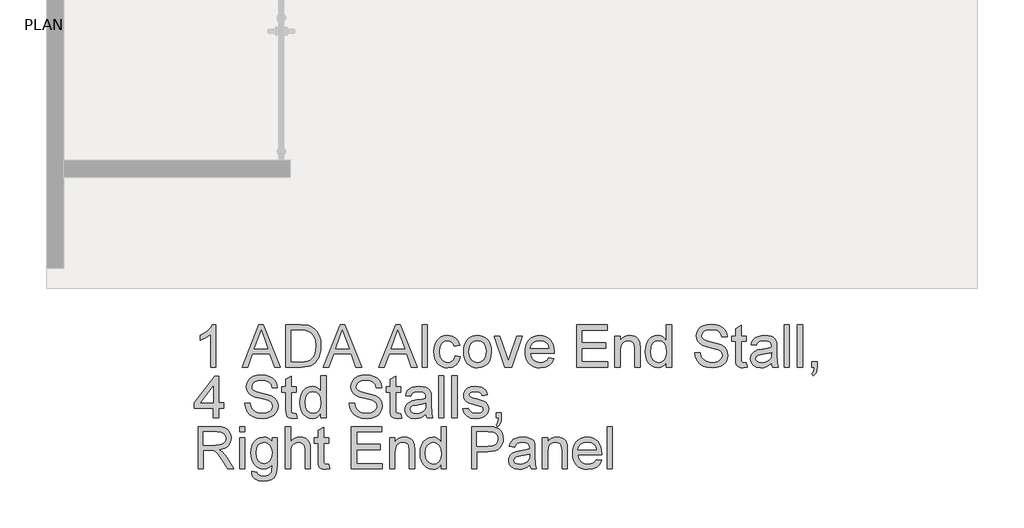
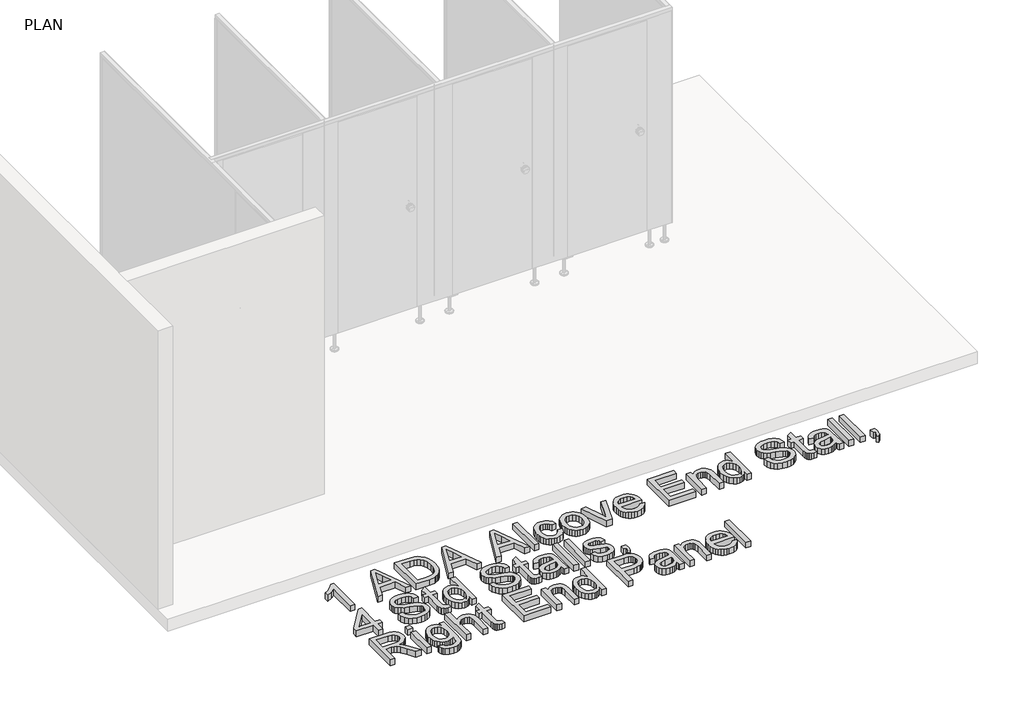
# One storey, part 3 of 21: 1 proxy.
"""IFC4 building model written with IfcOpenShell, lengths in millimetres."""

from ifc_helpers import new_model, si_unit, origin, origin_with_axes, place, context, project, spatial, polyline, outline, extrude, element, save

model = new_model("IFC4")

# Units and contexts
model_context = context("Model", 3, world=origin())
ifc_project = project(units=[si_unit("LENGTHUNIT", "METRE", prefix="MILLI")], contexts=[model_context])

# Site, building, storey
site = spatial("IfcSite", under=ifc_project)
building = spatial("IfcBuilding", under=site)
storey = spatial("IfcBuildingStorey", under=building, Name="PLAN", Elevation=0.0)

# Proxy
placement = place(None, origin())
element("IfcBuildingElementProxy", 1, Name="12\" Arial", ObjectType="12\" Arial", at=placement, inside=storey, context=model_context, shape_type="SweptSolid", body=[
    extrude(outline(polyline([(-21870.6570007, -4821.3604361), (-21908.7278874, -4821.3604361), (-21908.7278874, -4584.0122515), (-21944.7911298, -4609.7026643), (-21984.869661, -4628.9240007), (-21984.869661, -4592.9351156), (-21954.9687716, -4576.6694779), (-21929.0645818, -4557.3180164), (-21908.6442356, -4536.7396611), (-21895.1948769, -4516.7933421), (-21870.6570007, -4516.7933421), (-21870.6570007, -4821.3604361)])), origin_with_axes(), (0.0, 0.0, 1.0), 50.8),
    extrude(outline(polyline([(-21682.4589257, -4821.3604361), (-21560.8849026, -4516.7933421), (-21528.4651631, -4516.7933421), (-21406.8911399, -4821.3604361), (-21447.1183855, -4821.3604361), (-21481.9919126, -4726.1832192), (-21607.4325102, -4726.1832192), (-21642.2316801, -4821.3604361), (-21682.4589257, -4821.3604361)]), holes=[polyline([(-21593.4533565, -4688.1123325), (-21495.8967092, -4688.1123325), (-21523.3345162, -4613.2346314), (-21544.6750328, -4554.8642288), (-21563.636119, -4606.6911977), (-21593.4533565, -4688.1123325)])]), origin_with_axes(), (0.0, 0.0, 1.0), 50.8),
    extrude(outline(polyline([(-21366.2177511, -4821.3604361), (-21366.2177511, -4516.7933421), (-21261.1510265, -4516.7933421), (-21206.7959128, -4521.1804169), (-21182.5182868, -4529.6385485), (-21162.032878, -4542.9670767), (-21140.9712009, -4566.1665233), (-21125.9696357, -4595.0171172), (-21116.9910037, -4628.9611793), (-21113.9981264, -4667.4410307), (-21116.0243601, -4700.130315), (-21122.1030612, -4728.8972571), (-21131.3605327, -4753.38866), (-21142.9230774, -4773.2513273), (-21156.2330164, -4788.931402), (-21170.7326705, -4800.8750273), (-21187.3793888, -4809.7328289), (-21207.1305202, -4816.1554321), (-21256.0947369, -4821.3604361), (-21366.2177511, -4821.3604361)]), holes=[polyline([(-21328.1468644, -4783.2895494), (-21260.7792405, -4783.2895494), (-21232.9138796, -4781.9139412), (-21211.7778453, -4777.7871165), (-21195.8282257, -4771.1507363), (-21183.522109, -4762.2464616), (-21170.2958219, -4745.767047), (-21160.359841, -4724.435825), (-21154.1417201, -4698.1598492), (-21152.0690131, -4666.8461731), (-21156.1307752, -4625.3548551), (-21168.3160615, -4594.7196884), (-21186.3197987, -4573.6766006), (-21207.8369136, -4560.9615193), (-21229.7351093, -4556.3885514), (-21261.8202414, -4554.8642288), (-21328.1468644, -4554.8642288), (-21328.1468644, -4783.2895494)])]), origin_with_axes(), (0.0, 0.0, 1.0), 50.8),
    extrude(outline(polyline([(-21097.1190418, -4821.3604361), (-20975.5450187, -4516.7933421), (-20943.1252792, -4516.7933421), (-20821.551256, -4821.3604361), (-20861.7785016, -4821.3604361), (-20896.6520287, -4726.1832192), (-21022.0926263, -4726.1832192), (-21056.8917962, -4821.3604361), (-21097.1190418, -4821.3604361)]), holes=[polyline([(-21008.1134726, -4688.1123325), (-20910.5568252, -4688.1123325), (-20937.9946323, -4613.2346314), (-20959.3351489, -4554.8642288), (-20978.2962351, -4606.6911977), (-21008.1134726, -4688.1123325)])]), origin_with_axes(), (0.0, 0.0, 1.0), 50.8),
    extrude(outline(polyline([(-20697.3747308, -4821.3604361), (-20575.8007077, -4516.7933421), (-20543.3809682, -4516.7933421), (-20421.806945, -4821.3604361), (-20462.0341906, -4821.3604361), (-20496.9077178, -4726.1832192), (-20622.3483153, -4726.1832192), (-20657.1474853, -4821.3604361), (-20697.3747308, -4821.3604361)]), holes=[polyline([(-20608.3691616, -4688.1123325), (-20510.8125143, -4688.1123325), (-20538.2503213, -4613.2346314), (-20559.5908379, -4554.8642288), (-20578.5519241, -4606.6911977), (-20608.3691616, -4688.1123325)])]), origin_with_axes(), (0.0, 0.0, 1.0), 50.8),
    extrude(outline(polyline([(-20385.8924171, -4821.3604361), (-20385.8924171, -4516.7933421), (-20347.8215303, -4516.7933421), (-20347.8215303, -4821.3604361), (-20385.8924171, -4821.3604361)])), origin_with_axes(), (0.0, 0.0, 1.0), 50.8),
    extrude(outline(polyline([(-20147.9493749, -4740.4598018), (-20109.8784881, -4745.2186626), (-20120.4929785, -4779.0790729), (-20140.4392976, -4804.6672446), (-20167.8399261, -4820.7562839), (-20200.8173446, -4826.119297), (-20222.1694795, -4824.2487486), (-20241.314135, -4818.6371036), (-20258.2513111, -4809.284362), (-20272.9810078, -4796.1905237), (-20284.9037202, -4779.6018969), (-20293.4199434, -4759.76479), (-20298.5296773, -4736.6792028), (-20300.2329219, -4710.3451355), (-20297.3236964, -4676.4661359), (-20288.59602, -4647.1043363), (-20273.9104729, -4623.3936839), (-20253.1276353, -4606.4681261), (-20228.2644463, -4596.3183682), (-20201.337845, -4592.9351156), (-20169.169061, -4597.5824406), (-20143.4507642, -4611.5244157), (-20125.0008838, -4634.017469), (-20114.637349, -4664.3180282), (-20152.7082357, -4669.0768891), (-20159.6141607, -4652.4673494), (-20170.3680709, -4640.5609026), (-20184.3751086, -4633.3947274), (-20201.0404162, -4631.0060023), (-20225.6433549, -4635.7090953), (-20245.1714148, -4649.8183741), (-20257.91438, -4674.0960001), (-20262.1620351, -4709.3041347), (-20258.0073266, -4744.9862964), (-20245.5432008, -4769.3475742), (-20226.3683377, -4783.3732012), (-20202.081417, -4788.0484102), (-20182.3674641, -4785.1298901), (-20166.2040676, -4776.3743297), (-20154.4463353, -4761.5586575), (-20147.9493749, -4740.4598018)])), origin_with_axes(), (0.0, 0.0, 1.0), 50.8),
    extrude(outline(polyline([(-20086.0841839, -4709.5272063), (-20084.0254189, -4680.5604293), (-20077.8491239, -4655.5996465), (-20067.5552989, -4634.6448578), (-20053.143944, -4617.6960634), (-20038.6349952, -4606.8631487), (-20022.6203131, -4599.1253525), (-20005.0998977, -4594.4826748), (-19986.0737489, -4592.9351156), (-19965.0701634, -4594.8196059), (-19946.0788696, -4600.4730768), (-19929.0998676, -4609.8955283), (-19914.1331573, -4623.0869605), (-19901.9176634, -4639.60123), (-19893.1923106, -4658.9921937), (-19887.957099, -4681.2598517), (-19886.2120284, -4706.4042038), (-19889.2978522, -4744.8654659), (-19898.5553237, -4774.1436137), (-19913.714898, -4796.0696932), (-19934.5070303, -4812.4747506), (-19959.2029155, -4822.7081604), (-19986.0737489, -4826.119297), (-20007.3840579, -4824.2417776), (-20026.5519501, -4818.6092197), (-20043.5774254, -4809.2216231), (-20058.4604838, -4796.0789879), (-20070.5458526, -4779.4043856), (-20079.1782589, -4759.4208879), (-20084.3577026, -4736.1284948), (-20086.0841839, -4709.5272063)]), holes=[polyline([(-20048.0132971, -4709.4528491), (-20043.607633, -4743.9081169), (-20030.3906406, -4768.4552878), (-20010.5000894, -4783.1501296), (-19986.0737489, -4788.0484102), (-19961.7589443, -4783.1222457), (-19941.9055717, -4768.343752), (-19928.6885793, -4743.4712684), (-19924.2829152, -4708.2631339), (-19928.7164632, -4674.8116882), (-19942.0171075, -4650.5991247), (-19961.8983641, -4635.9042829), (-19986.0737489, -4631.0060023), (-20010.5000894, -4635.8856936), (-20030.3906406, -4650.5247675), (-20043.607633, -4675.0161705), (-20048.0132971, -4709.4528491)])]), origin_with_axes(), (0.0, 0.0, 1.0), 50.8),
    extrude(outline(polyline([(-19788.5066667, -4821.3604361), (-19867.176585, -4597.6939764), (-19826.8749822, -4597.6939764), (-19779.2120166, -4731.6856521), (-19764.8610769, -4776.7461157), (-19750.8075659, -4734.2137969), (-19702.8471715, -4597.6939764), (-19662.5455687, -4597.6939764), (-19740.2488434, -4821.3604361), (-19788.5066667, -4821.3604361)])), origin_with_axes(), (0.0, 0.0, 1.0), 50.8),
    extrude(outline(polyline([(-19472.6372781, -4754.7363843), (-19435.3099634, -4759.4952451), (-19448.759322, -4787.6208563), (-19470.2206691, -4808.6453548), (-19499.2106827, -4821.7508114), (-19535.2460411, -4826.119297), (-19558.8683943, -4824.2348067), (-19579.9161294, -4818.5813357), (-19598.3892465, -4809.1588842), (-19614.2877454, -4795.9674521), (-19627.0725366, -4779.374178), (-19636.2045303, -4759.7462007), (-19641.6837266, -4737.0835201), (-19643.5101253, -4711.3861363), (-19641.6651373, -4684.817379), (-19636.1301731, -4661.3995081), (-19626.9052329, -4641.1325236), (-19613.9903166, -4624.0164255), (-19598.1336436, -4610.4183524), (-19580.0834331, -4600.705443), (-19559.8396852, -4594.8776974), (-19537.4023999, -4592.9351156), (-19515.6877736, -4594.8730501), (-19496.0505017, -4600.6868537), (-19478.490584, -4610.3765265), (-19463.0080206, -4623.9420683), (-19450.3696202, -4641.0209878), (-19441.3421913, -4661.2507937), (-19435.9257339, -4684.631486), (-19434.1202481, -4711.1630647), (-19434.3433197, -4721.4243584), (-19605.4392386, -4721.4243584), (-19598.8493316, -4749.9217555), (-19583.5410429, -4770.8718968), (-19561.4476597, -4783.7542819), (-19534.5024691, -4788.0484102), (-19514.2401319, -4786.0593551), (-19497.1751543, -4780.0921897), (-19483.3075364, -4769.7751281), (-19472.6372781, -4754.7363843)]), holes=[polyline([(-19605.4392386, -4683.3534716), (-19472.1911349, -4683.3534716), (-19477.340371, -4663.2398488), (-19487.434361, -4648.8517305), (-19509.6299855, -4635.4674344), (-19537.5511143, -4631.0060023), (-19563.2136432, -4634.5658533), (-19584.4333294, -4645.2454063), (-19599.183939, -4661.8921246), (-19605.4392386, -4683.3534716)])]), origin_with_axes(), (0.0, 0.0, 1.0), 50.8),
    extrude(outline(polyline([(-19272.3189794, -4821.3604361), (-19272.3189794, -4516.7933421), (-19053.4113806, -4516.7933421), (-19053.4113806, -4554.8642288), (-19234.2480927, -4554.8642288), (-19234.2480927, -4645.2825849), (-19062.9291022, -4645.2825849), (-19062.9291022, -4683.3534716), (-19234.2480927, -4683.3534716), (-19234.2480927, -4783.2895494), (-19048.6525197, -4783.2895494), (-19048.6525197, -4821.3604361), (-19272.3189794, -4821.3604361)])), origin_with_axes(), (0.0, 0.0, 1.0), 50.8),
    extrude(outline(polyline([(-18996.3050504, -4821.3604361), (-18996.3050504, -4597.6939764), (-18958.2341637, -4597.6939764), (-18958.2341637, -4628.9240007), (-18945.0078766, -4613.1788635), (-18929.1233196, -4601.9323369), (-18910.5804927, -4595.1844209), (-18889.3793958, -4592.9351156), (-18870.6134973, -4594.7475723), (-18853.4276893, -4600.1849426), (-18839.0953388, -4608.568717), (-18828.889813, -4619.220386), (-18817.4759827, -4647.2158721), (-18815.4683383, -4684.0226864), (-18815.4683383, -4821.3604361), (-18853.5392251, -4821.3604361), (-18853.5392251, -4689.1533333), (-18857.9262999, -4655.4695214), (-18863.9957064, -4645.4405939), (-18873.4297763, -4637.6609718), (-18885.522116, -4632.6697447), (-18899.5663323, -4631.0060023), (-18921.8641979, -4634.7424517), (-18940.8717573, -4645.9517997), (-18948.4678101, -4655.1023827), (-18953.8935621, -4667.6083344), (-18958.2341637, -4702.6863438), (-18958.2341637, -4821.3604361), (-18996.3050504, -4821.3604361)])), origin_with_axes(), (0.0, 0.0, 1.0), 50.8),
    extrude(outline(polyline([(-18625.1139045, -4821.3604361), (-18625.1139045, -4785.4459082), (-18636.5044982, -4803.2405158), (-18650.3024063, -4815.9509498), (-18666.5076287, -4823.5772102), (-18685.1201655, -4826.119297), (-18709.7323989, -4822.4386155), (-18732.2626307, -4811.3965712), (-18751.3352527, -4793.76462), (-18765.5746566, -4770.3142178), (-18774.4417528, -4741.993419), (-18777.3974516, -4709.7502779), (-18774.6741191, -4677.9068067), (-18766.5041217, -4649.1491593), (-18752.8967539, -4625.1131942), (-18733.8613105, -4607.4347697), (-18710.8384623, -4596.5600291), (-18685.2688799, -4592.9351156), (-18666.6424011, -4595.5283229), (-18650.1722812, -4603.3079451), (-18636.2117167, -4615.2329811), (-18625.1139045, -4630.2624303), (-18625.1139045, -4516.7933421), (-18587.0430178, -4516.7933421), (-18587.0430178, -4821.3604361), (-18625.1139045, -4821.3604361)]), holes=[polyline([(-18739.3265648, -4709.6015635), (-18735.0324365, -4744.038242), (-18722.1500514, -4768.529645), (-18703.4306262, -4783.1687189), (-18681.6253771, -4788.0484102), (-18659.8294226, -4783.3917905), (-18641.5840245, -4769.4219314), (-18629.2314345, -4745.8785828), (-18625.1139045, -4712.5014943), (-18629.3057917, -4676.0106981), (-18641.8814533, -4650.7106605), (-18660.5915839, -4635.9321669), (-18683.1868783, -4631.0060023), (-18705.215199, -4635.7369792), (-18723.2654094, -4649.9299099), (-18735.311276, -4674.3097771), (-18739.3265648, -4709.6015635)])]), origin_with_axes(), (0.0, 0.0, 1.0), 50.8),
    extrude(outline(polyline([(-18420.4828882, -4716.6654975), (-18382.4120014, -4716.6654975), (-18378.0435159, -4737.7922372), (-18370.1430633, -4754.7735629), (-18357.8183573, -4768.2508055), (-18340.1771114, -4778.8652959), (-18318.6135232, -4785.7526316), (-18294.5217902, -4788.0484102), (-18273.3113987, -4786.3103106), (-18254.7406878, -4781.0960119), (-18239.6926493, -4772.8423627), (-18229.050275, -4761.9862114), (-18222.7206183, -4749.5220856), (-18220.6107327, -4736.4445129), (-18222.1908232, -4723.7015477), (-18226.9310948, -4712.6873873), (-18236.5603523, -4703.2904961), (-18252.8074006, -4695.3993381), (-18308.2406937, -4680.8625054), (-18344.6292488, -4671.2425426), (-18367.9123473, -4662.0873122), (-18386.8641388, -4649.2792844), (-18400.2949082, -4633.7572188), (-18408.2976019, -4615.8557227), (-18410.9651665, -4595.9094036), (-18407.6655657, -4573.611538), (-18397.7667634, -4552.8194058), (-18381.5290097, -4535.1967492), (-18359.2125548, -4522.4073107), (-18332.4253733, -4514.6276886), (-18302.7754395, -4512.0344812), (-18270.6531288, -4514.748519), (-18242.5461069, -4522.8906325), (-18219.4581961, -4536.2935179), (-18202.3932185, -4554.7898716), (-18191.5928351, -4577.2271569), (-18187.2987068, -4602.4528373), (-18225.3695936, -4602.4528373), (-18232.3591704, -4579.7367124), (-18246.9331818, -4563.3409497), (-18269.7050745, -4553.4142634), (-18301.2882955, -4550.105368), (-18333.6150885, -4553.3770848), (-18355.7921236, -4563.1922353), (-18368.6187407, -4577.6361215), (-18372.8942797, -4594.7940456), (-18369.8642238, -4609.4238248), (-18360.774056, -4621.1908518), (-18339.284825, -4631.7123957), (-18298.6114362, -4642.4570112), (-18256.6367965, -4652.662537), (-18231.2438124, -4661.5668118), (-18209.5408045, -4675.3786618), (-18194.3998195, -4692.4250501), (-18185.5048393, -4712.5200836), (-18182.539846, -4735.4778693), (-18185.9509825, -4758.9468608), (-18196.1843923, -4781.0216547), (-18212.8218159, -4800.0199195), (-18235.4449943, -4814.2593235), (-18262.6504351, -4823.1543036), (-18293.0346462, -4826.119297), (-18330.334077, -4822.9219373), (-18361.0343062, -4813.3298584), (-18385.4885306, -4797.3058817), (-18404.0499468, -4774.8128285), (-18415.9656883, -4747.4122), (-18420.4828882, -4716.6654975)])), origin_with_axes(), (0.0, 0.0, 1.0), 50.8),
    extrude(outline(polyline([(-18049.2917423, -4789.6099114), (-18044.5328815, -4822.4757941), (-18073.0116893, -4826.119297), (-18091.2849714, -4824.5392065), (-18104.9109284, -4819.7989349), (-18114.5401859, -4812.4933399), (-18120.8233694, -4803.2172792), (-18124.2809792, -4787.2862489), (-18125.4335158, -4760.0157455), (-18125.4335158, -4635.7648632), (-18153.9866809, -4635.7648632), (-18153.9866809, -4597.6939764), (-18125.4335158, -4597.6939764), (-18125.4335158, -4543.3388627), (-18087.3626291, -4520.9573453), (-18087.3626291, -4597.6939764), (-18049.2917423, -4597.6939764), (-18049.2917423, -4635.7648632), (-18087.3626291, -4635.7648632), (-18087.3626291, -4758.9003875), (-18085.3549846, -4778.5306885), (-18078.8487296, -4785.4830868), (-18065.8733981, -4788.0484102), (-18049.2917423, -4789.6099114)])), origin_with_axes(), (0.0, 0.0, 1.0), 50.8),
    extrude(outline(polyline([(-17868.4550302, -4792.8072711), (-17886.6446604, -4808.4036939), (-17905.3733803, -4818.6092197), (-17925.0687439, -4824.2417776), (-17946.1583049, -4826.119297), (-17977.9738922, -4821.602097), (-18001.4428836, -4808.0504972), (-18015.9146538, -4787.4721419), (-18020.7385772, -4761.8746756), (-18018.9168258, -4746.0923597), (-18013.4515716, -4731.7600093), (-18005.0213239, -4719.4910712), (-17994.3045924, -4709.8989923), (-17967.6475359, -4697.4069826), (-17934.707296, -4691.6814781), (-17895.7813015, -4685.6585448), (-17868.6781018, -4678.5946108), (-17868.4550302, -4670.1178899), (-17871.0761215, -4653.1272695), (-17878.9393955, -4642.010868), (-17896.5248735, -4633.7572188), (-17921.0255711, -4631.0060023), (-17943.7045173, -4632.8370484), (-17959.5426011, -4638.3301866), (-17970.3429845, -4648.4892391), (-17977.9088296, -4664.3180282), (-18015.9797164, -4659.5591674), (-18009.3712202, -4638.7391512), (-17999.5095964, -4622.380567), (-17985.4746748, -4609.869968), (-17966.3462849, -4600.5939072), (-17942.9516506, -4594.8498135), (-17916.1179958, -4592.9351156), (-17890.3811098, -4594.6267419), (-17869.9793528, -4599.7016208), (-17854.5967069, -4607.3325286), (-17843.917154, -4616.6922412), (-17836.8346306, -4628.2640806), (-17832.2430735, -4642.5313684), (-17830.3841434, -4675.8433944), (-17830.3841434, -4723.2089312), (-17828.4508562, -4789.3496612), (-17820.8664217, -4821.3604361), (-17858.9373085, -4821.3604361), (-17865.034599, -4808.1248544), (-17868.4550302, -4792.8072711)]), holes=[polyline([(-17868.4550302, -4716.6654975), (-17929.874078, -4728.339578), (-17962.6284249, -4734.5112257), (-17977.4626864, -4744.5494478), (-17982.6676905, -4759.1978163), (-17979.8328222, -4770.5187001), (-17971.3282174, -4779.7947609), (-17957.339769, -4785.9849979), (-17938.0533701, -4788.0484102), (-17917.6051399, -4785.7712209), (-17899.5363401, -4778.9396531), (-17884.8879716, -4768.8735471), (-17874.7010351, -4756.8927431), (-17870.1838351, -4744.5494478), (-17868.6781018, -4727.4472916), (-17868.4550302, -4716.6654975)])]), origin_with_axes(), (0.0, 0.0, 1.0), 50.8),
    extrude(outline(polyline([(-17778.0366741, -4821.3604361), (-17778.0366741, -4516.7933421), (-17739.9657874, -4516.7933421), (-17739.9657874, -4821.3604361), (-17778.0366741, -4821.3604361)])), origin_with_axes(), (0.0, 0.0, 1.0), 50.8),
    extrude(outline(polyline([(-17682.8594572, -4821.3604361), (-17682.8594572, -4516.7933421), (-17644.7885705, -4516.7933421), (-17644.7885705, -4821.3604361), (-17682.8594572, -4821.3604361)])), origin_with_axes(), (0.0, 0.0, 1.0), 50.8),
    extrude(outline(polyline([(-17578.1645187, -4821.3604361), (-17578.1645187, -4783.2895494), (-17540.0936319, -4783.2895494), (-17540.0936319, -4821.3604361), (-17541.8038475, -4843.1378013), (-17546.9344944, -4860.2864307), (-17555.7830013, -4873.4383606), (-17568.646797, -4883.2256271), (-17578.1645187, -4868.9490446), (-17569.9108694, -4862.0524142), (-17564.1853649, -4852.5161032), (-17559.2034325, -4821.3604361), (-17578.1645187, -4821.3604361)])), origin_with_axes(), (0.0, 0.0, 1.0), 50.8),
    extrude(outline(polyline([(-21889.6924441, -5187.4131005), (-21889.6924441, -5116.0301878), (-22027.6994086, -5116.0301878), (-22027.6994086, -5077.959301), (-21880.1747224, -4887.6048672), (-21851.6215573, -4887.6048672), (-21851.6215573, -5077.959301), (-21813.5506706, -5077.959301), (-21813.5506706, -5116.0301878), (-21851.6215573, -5116.0301878), (-21851.6215573, -5187.4131005), (-21889.6924441, -5187.4131005)]), holes=[polyline([(-21889.6924441, -5077.959301), (-21889.6924441, -4960.3262095), (-21980.8543721, -5077.959301), (-21889.6924441, -5077.959301)])]), origin_with_axes(), (0.0, 0.0, 1.0), 50.8),
    extrude(outline(polyline([(-21661.2671235, -5082.7181619), (-21623.1962368, -5082.7181619), (-21618.8277512, -5103.8449015), (-21610.9272986, -5120.8262272), (-21598.6025926, -5134.3034699), (-21580.9613468, -5144.9179603), (-21559.3977586, -5151.805296), (-21535.3060255, -5154.1010745), (-21514.095634, -5152.362975), (-21495.5249232, -5147.1486763), (-21480.4768847, -5138.895027), (-21469.8345103, -5128.0388757), (-21463.5048536, -5115.5747499), (-21461.394968, -5102.4971773), (-21462.9750585, -5089.754212), (-21467.7153301, -5078.7400516), (-21477.3445876, -5069.3431604), (-21493.5916359, -5061.4520025), (-21549.0249291, -5046.9151697), (-21585.4134842, -5037.2952069), (-21608.6965826, -5028.1399766), (-21627.6483741, -5015.3319487), (-21641.0791435, -4999.8098831), (-21649.0818373, -4981.908387), (-21651.7494018, -4961.9620679), (-21648.449801, -4939.6642024), (-21638.5509987, -4918.8720701), (-21622.313245, -4901.2494136), (-21599.9967901, -4888.459975), (-21573.2096086, -4880.6803529), (-21543.5596748, -4878.0871455), (-21511.4373641, -4880.8011834), (-21483.3303422, -4888.9432969), (-21460.2424314, -4902.3461823), (-21443.1774539, -4920.842536), (-21432.3770705, -4943.2798213), (-21428.0829421, -4968.5055016), (-21466.1538289, -4968.5055016), (-21473.1434057, -4945.7893768), (-21487.7174171, -4929.393614), (-21510.4893098, -4919.4669277), (-21542.0725308, -4916.1580323), (-21574.3993238, -4919.4297491), (-21596.5763589, -4929.2448996), (-21609.402976, -4943.6887859), (-21613.6785151, -4960.8467099), (-21610.6484591, -4975.4764892), (-21601.5582914, -4987.2435162), (-21580.0690604, -4997.7650601), (-21539.3956716, -5008.5096756), (-21497.4210318, -5018.7152014), (-21472.0280477, -5027.6194762), (-21450.3250398, -5041.4313262), (-21435.1840548, -5058.4777144), (-21426.2890747, -5078.5727479), (-21423.3240813, -5101.5305337), (-21426.7352179, -5124.9995251), (-21436.9686276, -5147.0743191), (-21453.6060513, -5166.0725839), (-21476.2292296, -5180.3119878), (-21503.4346704, -5189.2069679), (-21533.8188815, -5192.1719613), (-21571.1183123, -5188.9746017), (-21601.8185416, -5179.3825228), (-21626.2727659, -5163.358546), (-21644.8341822, -5140.8654928), (-21656.7499236, -5113.4648644), (-21661.2671235, -5082.7181619)])), origin_with_axes(), (0.0, 0.0, 1.0), 50.8),
    extrude(outline(polyline([(-21290.0759776, -5155.6625758), (-21285.3171168, -5188.5284585), (-21313.7959246, -5192.1719613), (-21332.0692067, -5190.5918708), (-21345.6951637, -5185.8515992), (-21355.3244212, -5178.5460043), (-21361.6076047, -5169.2699435), (-21365.0652145, -5153.3389132), (-21366.2177511, -5126.0684099), (-21366.2177511, -5001.8175275), (-21394.7709162, -5001.8175275), (-21394.7709162, -4963.7466408), (-21366.2177511, -4963.7466408), (-21366.2177511, -4909.391527), (-21328.1468644, -4887.0100096), (-21328.1468644, -4963.7466408), (-21290.0759776, -4963.7466408), (-21290.0759776, -5001.8175275), (-21328.1468644, -5001.8175275), (-21328.1468644, -5124.9530519), (-21326.13922, -5144.5833529), (-21319.6329649, -5151.5357511), (-21306.6576334, -5154.1010745), (-21290.0759776, -5155.6625758)])), origin_with_axes(), (0.0, 0.0, 1.0), 50.8),
    extrude(outline(polyline([(-21113.9981264, -5187.4131005), (-21113.9981264, -5151.4985725), (-21125.38872, -5169.2931801), (-21139.1866281, -5182.0036141), (-21155.3918505, -5189.6298745), (-21174.0043873, -5192.1719613), (-21198.6166208, -5188.4912799), (-21221.1468526, -5177.4492356), (-21240.2194746, -5159.8172844), (-21254.4588785, -5136.3668822), (-21263.3259747, -5108.0460834), (-21266.2816734, -5075.8029422), (-21263.5583409, -5043.959471), (-21255.3883435, -5015.2018236), (-21241.7809758, -4991.1658585), (-21222.7455324, -4973.487434), (-21199.7226841, -4962.6126934), (-21174.1531017, -4958.9877799), (-21155.526623, -4961.5809873), (-21139.056503, -4969.3606094), (-21125.0959386, -4981.2856455), (-21113.9981264, -4996.3150947), (-21113.9981264, -4882.8460064), (-21075.9272396, -4882.8460064), (-21075.9272396, -5187.4131005), (-21113.9981264, -5187.4131005)]), holes=[polyline([(-21228.2107866, -5075.6542278), (-21223.9166583, -5110.0909064), (-21211.0342733, -5134.5823094), (-21192.314848, -5149.2213833), (-21170.5095989, -5154.1010745), (-21148.7136444, -5149.4444549), (-21130.4682463, -5135.4745958), (-21118.1156564, -5111.9312471), (-21113.9981264, -5078.5541586), (-21118.1900136, -5042.0633624), (-21130.7656751, -5016.7633249), (-21149.4758057, -5001.9848312), (-21172.0711001, -4997.0586667), (-21194.0994208, -5001.7896436), (-21212.1496313, -5015.9825742), (-21224.1954978, -5040.3624414), (-21228.2107866, -5075.6542278)])]), origin_with_axes(), (0.0, 0.0, 1.0), 50.8),
    extrude(outline(polyline([(-20909.36711, -5082.7181619), (-20871.2962233, -5082.7181619), (-20866.9277377, -5103.8449015), (-20859.0272852, -5120.8262272), (-20846.7025791, -5134.3034699), (-20829.0613333, -5144.9179603), (-20807.4977451, -5151.805296), (-20783.406012, -5154.1010745), (-20762.1956205, -5152.362975), (-20743.6249097, -5147.1486763), (-20728.5768712, -5138.895027), (-20717.9344968, -5128.0388757), (-20711.6048401, -5115.5747499), (-20709.4949546, -5102.4971773), (-20711.0750451, -5089.754212), (-20715.8153166, -5078.7400516), (-20725.4445741, -5069.3431604), (-20741.6916225, -5061.4520025), (-20797.1249156, -5046.9151697), (-20833.5134707, -5037.2952069), (-20856.7965691, -5028.1399766), (-20875.7483607, -5015.3319487), (-20889.17913, -4999.8098831), (-20897.1818238, -4981.908387), (-20899.8493883, -4961.9620679), (-20896.5497876, -4939.6642024), (-20886.6509852, -4918.8720701), (-20870.4132315, -4901.2494136), (-20848.0967767, -4888.459975), (-20821.3095951, -4880.6803529), (-20791.6596613, -4878.0871455), (-20759.5373506, -4880.8011834), (-20731.4303288, -4888.9432969), (-20708.3424179, -4902.3461823), (-20691.2774404, -4920.842536), (-20680.477057, -4943.2798213), (-20676.1829286, -4968.5055016), (-20714.2538154, -4968.5055016), (-20721.2433923, -4945.7893768), (-20735.8174036, -4929.393614), (-20758.5892963, -4919.4669277), (-20790.1725173, -4916.1580323), (-20822.4993103, -4919.4297491), (-20844.6763454, -4929.2448996), (-20857.5029625, -4943.6887859), (-20861.7785016, -4960.8467099), (-20858.7484457, -4975.4764892), (-20849.6582779, -4987.2435162), (-20828.1690469, -4997.7650601), (-20787.4956581, -5008.5096756), (-20745.5210183, -5018.7152014), (-20720.1280343, -5027.6194762), (-20698.4250263, -5041.4313262), (-20683.2840413, -5058.4777144), (-20674.3890612, -5078.5727479), (-20671.4240678, -5101.5305337), (-20674.8352044, -5124.9995251), (-20685.0686141, -5147.0743191), (-20701.7060378, -5166.0725839), (-20724.3292161, -5180.3119878), (-20751.5346569, -5189.2069679), (-20781.918868, -5192.1719613), (-20819.2182988, -5188.9746017), (-20849.9185281, -5179.3825228), (-20874.3727525, -5163.358546), (-20892.9341687, -5140.8654928), (-20904.8499101, -5113.4648644), (-20909.36711, -5082.7181619)])), origin_with_axes(), (0.0, 0.0, 1.0), 50.8),
    extrude(outline(polyline([(-20538.1759641, -5155.6625758), (-20533.4171033, -5188.5284585), (-20561.8959112, -5192.1719613), (-20580.1691932, -5190.5918708), (-20593.7951503, -5185.8515992), (-20603.4244078, -5178.5460043), (-20609.7075912, -5169.2699435), (-20613.165201, -5153.3389132), (-20614.3177377, -5126.0684099), (-20614.3177377, -5001.8175275), (-20642.8709027, -5001.8175275), (-20642.8709027, -4963.7466408), (-20614.3177377, -4963.7466408), (-20614.3177377, -4909.391527), (-20576.2468509, -4887.0100096), (-20576.2468509, -4963.7466408), (-20538.1759641, -4963.7466408), (-20538.1759641, -5001.8175275), (-20576.2468509, -5001.8175275), (-20576.2468509, -5124.9530519), (-20574.2392065, -5144.5833529), (-20567.7329514, -5151.5357511), (-20554.7576199, -5154.1010745), (-20538.1759641, -5155.6625758)])), origin_with_axes(), (0.0, 0.0, 1.0), 50.8),
    extrude(outline(polyline([(-20357.339252, -5158.8599354), (-20375.5288823, -5174.4563582), (-20394.2576022, -5184.661884), (-20413.9529657, -5190.294442), (-20435.0425268, -5192.1719613), (-20466.858114, -5187.6547614), (-20490.3271055, -5174.1031615), (-20504.7988757, -5153.5248062), (-20509.6227991, -5127.9273399), (-20507.8010477, -5112.1450241), (-20502.3357934, -5097.8126736), (-20493.9055458, -5085.5437355), (-20483.1888142, -5075.9516566), (-20456.5317578, -5063.4596469), (-20423.5915179, -5057.7341424), (-20384.6655233, -5051.7112092), (-20357.5623236, -5044.6472751), (-20357.339252, -5036.1705542), (-20359.9603434, -5019.1799339), (-20367.8236173, -5008.0635324), (-20385.4090953, -4999.8098831), (-20409.9097929, -4997.0586667), (-20432.5887391, -4998.8897127), (-20448.4268229, -5004.3828509), (-20459.2272063, -5014.5419035), (-20466.7930515, -5030.3706926), (-20504.8639382, -5025.6118317), (-20498.255442, -5004.7918155), (-20488.3938183, -4988.4332314), (-20474.3588966, -4975.9226324), (-20455.2305068, -4966.6465716), (-20431.8358725, -4960.9024778), (-20405.0022177, -4958.9877799), (-20379.2653316, -4960.6794062), (-20358.8635747, -4965.7542852), (-20343.4809288, -4973.3851929), (-20332.8013758, -4982.7449055), (-20325.7188524, -4994.3167449), (-20321.1272953, -5008.5840328), (-20319.2683653, -5041.8960587), (-20319.2683653, -5089.2615955), (-20317.3350781, -5155.4023256), (-20309.7506436, -5187.4131005), (-20347.8215303, -5187.4131005), (-20353.9188208, -5174.1775187), (-20357.339252, -5158.8599354)]), holes=[polyline([(-20357.339252, -5082.7181619), (-20418.7582998, -5094.3922424), (-20451.5126467, -5100.56389), (-20466.3469083, -5110.6021121), (-20471.5519123, -5125.2504807), (-20468.717044, -5136.5713645), (-20460.2124392, -5145.8474253), (-20446.2239908, -5152.0376622), (-20426.9375919, -5154.1010745), (-20406.4893617, -5151.8238853), (-20388.4205619, -5144.9923175), (-20373.7721934, -5134.9262114), (-20363.5852569, -5122.9454075), (-20359.068057, -5110.6021121), (-20357.5623236, -5093.499956), (-20357.339252, -5082.7181619)])]), origin_with_axes(), (0.0, 0.0, 1.0), 50.8),
    extrude(outline(polyline([(-20266.920896, -5187.4131005), (-20266.920896, -4882.8460064), (-20228.8500092, -4882.8460064), (-20228.8500092, -5187.4131005), (-20266.920896, -5187.4131005)])), origin_with_axes(), (0.0, 0.0, 1.0), 50.8),
    extrude(outline(polyline([(-20171.7436791, -5187.4131005), (-20171.7436791, -4882.8460064), (-20133.6727923, -4882.8460064), (-20133.6727923, -5187.4131005), (-20171.7436791, -5187.4131005)])), origin_with_axes(), (0.0, 0.0, 1.0), 50.8),
    extrude(outline(polyline([(-20090.8430447, -5120.7890486), (-20052.772158, -5116.0301878), (-20046.767814, -5132.3144147), (-20035.1495014, -5144.2859241), (-20017.8428629, -5151.6472869), (-19994.7735414, -5154.1010745), (-19971.9830594, -5151.8517692), (-19955.9590827, -5145.1038533), (-19946.4785396, -5135.3258814), (-19943.3183585, -5123.9864083), (-19946.4971289, -5114.2827936), (-19956.0334399, -5106.8842521), (-19995.2196846, -5096.0281008), (-20052.5490864, -5077.401622), (-20067.0580352, -5068.0419094), (-20077.5702844, -5055.6521408), (-20083.955709, -5041.0223616), (-20086.0841839, -5024.9426169), (-20084.3739683, -5010.1920072), (-20079.2433214, -4996.5753449), (-20071.1569758, -4984.6317195), (-20060.579664, -4974.9002209), (-20036.3763952, -4963.635105), (-20003.6220483, -4958.9877799), (-19978.8425112, -4960.8560046), (-19957.2975123, -4966.4606786), (-19939.9722845, -4975.2534176), (-19927.8520608, -4986.6858372), (-19919.8214831, -5001.6037506), (-19914.7651935, -5020.8529709), (-19952.8360802, -5025.6118317), (-19957.6414143, -5013.6310278), (-19967.1498414, -5004.6059225), (-19981.4543078, -4998.9454806), (-20000.6477603, -4997.0586667), (-20022.5087773, -4998.8618288), (-20037.0827886, -5004.2713151), (-20045.28067, -5012.0788212), (-20048.0132971, -5021.0760425), (-20043.4775079, -5032.1552654), (-20029.2752825, -5040.5576291), (-19996.483757, -5048.662564), (-19940.6043207, -5066.5826493), (-19925.8444164, -5075.1523167), (-19914.6536577, -5086.8821651), (-19907.5990183, -5101.8093732), (-19905.2474718, -5119.9711194), (-19908.0079829, -5138.7463126), (-19916.2895161, -5156.4061478), (-19929.7760534, -5171.5657221), (-19948.1515766, -5182.8401326), (-19970.347201, -5189.8390041), (-19995.2940418, -5192.1719613), (-20033.6809467, -5187.6733507), (-20061.6950221, -5174.1775187), (-20080.395858, -5151.8331799), (-20090.8430447, -5120.7890486)])), origin_with_axes(), (0.0, 0.0, 1.0), 50.8),
    extrude(outline(polyline([(-19852.9000025, -5187.4131005), (-19852.9000025, -5149.3422137), (-19814.8291157, -5149.3422137), (-19814.8291157, -5187.4131005), (-19816.5393313, -5209.1904656), (-19821.6699782, -5226.339095), (-19830.5184851, -5239.4910249), (-19843.3822808, -5249.2782914), (-19852.9000025, -5235.0017089), (-19844.6463532, -5228.1050785), (-19838.9208488, -5218.5687676), (-19833.9389163, -5187.4131005), (-19852.9000025, -5187.4131005)])), origin_with_axes(), (0.0, 0.0, 1.0), 50.8),
    extrude(outline(polyline([(-21999.1462435, -5553.4657648), (-21999.1462435, -5248.8986707), (-21867.9057843, -5248.8986707), (-21832.6325872, -5250.9527884), (-21806.9700583, -5257.1151414), (-21788.2134544, -5268.4917931), (-21773.6580324, -5286.1888069), (-21764.316909, -5308.1334757), (-21761.2032013, -5332.2530927), (-21766.3617321, -5362.2562232), (-21781.8373245, -5387.1287068), (-21793.5602019, -5397.2645228), (-21808.0947109, -5405.3648103), (-21845.5986241, -5415.4588003), (-21823.9606786, -5431.7430273), (-21793.1024404, -5470.929272), (-21742.3164723, -5553.4657648), (-21786.5590067, -5553.4657648), (-21826.1913947, -5490.3365014), (-21854.8189169, -5448.5477546), (-21874.9325397, -5428.8059178), (-21893.0385181, -5421.5560908), (-21915.1226067, -5420.2176611), (-21961.0753567, -5420.2176611), (-21961.0753567, -5553.4657648), (-21999.1462435, -5553.4657648)]), holes=[polyline([(-21961.0753567, -5382.1467744), (-21875.8620047, -5382.1467744), (-21851.3891911, -5380.7990501), (-21832.4002209, -5376.7558773), (-21818.1050491, -5369.7477112), (-21807.7136303, -5359.5050068), (-21801.3839736, -5347.1152382), (-21799.274088, -5333.6658795), (-21803.2986715, -5315.0951687), (-21815.372422, -5300.130782), (-21836.1459649, -5290.2598636), (-21866.2699258, -5286.9695575), (-21961.0753567, -5286.9695575), (-21961.0753567, -5382.1467744)])]), origin_with_axes(), (0.0, 0.0, 1.0), 50.8),
    extrude(outline(polyline([(-21699.3380103, -5286.9695575), (-21699.3380103, -5248.8986707), (-21661.2671235, -5248.8986707), (-21661.2671235, -5286.9695575), (-21699.3380103, -5286.9695575)])), origin_with_axes(), (0.0, 0.0, 1.0), 50.8),
    extrude(outline(polyline([(-21699.3380103, -5553.4657648), (-21699.3380103, -5329.7993051), (-21661.2671235, -5329.7993051), (-21661.2671235, -5553.4657648), (-21699.3380103, -5553.4657648)])), origin_with_axes(), (0.0, 0.0, 1.0), 50.8),
    extrude(outline(polyline([(-21613.6785151, -5572.5012082), (-21575.6076283, -5577.260069), (-21571.4064465, -5589.1572211), (-21563.264333, -5597.3365132), (-21547.2589455, -5603.6940539), (-21526.3088042, -5605.8132341), (-21503.9644654, -5603.4152144), (-21487.3456311, -5596.2211552), (-21475.820265, -5584.6957891), (-21468.7563309, -5569.3038486), (-21466.1538289, -5524.9125997), (-21478.8224369, -5537.4046094), (-21492.9595997, -5546.3274735), (-21508.5653172, -5551.681192), (-21525.6395894, -5553.4657648), (-21546.5130499, -5551.3884105), (-21564.8908968, -5545.1563476), (-21580.7731301, -5534.7695761), (-21594.1597499, -5520.2280961), (-21604.7812113, -5502.7820379), (-21612.3679694, -5483.6815319), (-21616.9200243, -5462.9265783), (-21618.4373759, -5440.5171769), (-21615.7140434, -5409.7797691), (-21607.544046, -5381.5147382), (-21594.2155178, -5357.5624249), (-21576.0165929, -5339.76317), (-21553.570013, -5328.7211257), (-21527.4985195, -5325.0404442), (-21509.6946172, -5327.1224459), (-21493.535868, -5333.3684507), (-21479.0222719, -5343.7784588), (-21466.1538289, -5358.3524702), (-21466.1538289, -5329.7993051), (-21428.0829421, -5329.7993051), (-21428.0829421, -5522.9049553), (-21430.6854441, -5567.4913918), (-21438.4929502, -5596.8531914), (-21451.9423089, -5616.3254833), (-21471.4703687, -5631.2433967), (-21496.6495758, -5640.7239398), (-21527.0523763, -5643.8841209), (-21562.4742877, -5639.4319835), (-21590.3675326, -5626.0755713), (-21600.8728109, -5616.0489675), (-21608.2597341, -5603.7777057), (-21612.5283021, -5589.261786), (-21613.6785151, -5572.5012082)]), holes=[polyline([(-21580.3664892, -5437.9146749), (-21576.3047271, -5472.8346753), (-21564.1194408, -5496.8427565), (-21545.7996855, -5510.7568476), (-21523.3345162, -5515.394878), (-21501.0366507, -5510.7847316), (-21482.6239488, -5496.9542923), (-21470.2713589, -5473.2529345), (-21466.1538289, -5439.0300329), (-21470.3921893, -5406.0247305), (-21483.1072706, -5382.2583102), (-21501.7895173, -5367.8980758), (-21523.9293738, -5363.111331), (-21545.6695604, -5367.8237186), (-21563.8963692, -5381.9608814), (-21576.2489592, -5405.374105), (-21580.3664892, -5437.9146749)])]), origin_with_axes(), (0.0, 0.0, 1.0), 50.8),
    extrude(outline(polyline([(-21370.976612, -5553.4657648), (-21370.976612, -5248.8986707), (-21332.9057252, -5248.8986707), (-21332.9057252, -5360.880615), (-21318.9219242, -5345.2005403), (-21303.2186128, -5334.0004869), (-21285.7957913, -5327.2804549), (-21266.6534594, -5325.0404442), (-21243.6584951, -5327.4849372), (-21223.898069, -5334.8184161), (-21208.3388248, -5346.4646127), (-21197.947406, -5361.8472586), (-21192.0917764, -5382.9832929), (-21190.1398999, -5411.8896547), (-21190.1398999, -5553.4657648), (-21228.2107866, -5553.4657648), (-21228.2107866, -5415.8305863), (-21231.2408426, -5391.9991035), (-21240.3310104, -5375.6776979), (-21254.9793789, -5366.2529227), (-21274.6840371, -5363.111331), (-21290.7730764, -5365.2305112), (-21305.8768828, -5371.5880519), (-21318.3874818, -5381.5705061), (-21326.696899, -5394.5644269), (-21331.3535187, -5411.8338868), (-21332.9057252, -5434.6429581), (-21332.9057252, -5553.4657648), (-21370.976612, -5553.4657648)])), origin_with_axes(), (0.0, 0.0, 1.0), 50.8),
    extrude(outline(polyline([(-21056.8917962, -5521.7152401), (-21052.1329354, -5554.5811228), (-21080.6117432, -5558.2246256), (-21098.8850253, -5556.6445351), (-21112.5109823, -5551.9042636), (-21122.1402398, -5544.5986686), (-21128.4234233, -5535.3226078), (-21131.8810331, -5519.3915776), (-21133.0335697, -5492.1210742), (-21133.0335697, -5367.8701919), (-21161.5867348, -5367.8701919), (-21161.5867348, -5329.7993051), (-21133.0335697, -5329.7993051), (-21133.0335697, -5275.4441914), (-21094.962683, -5253.062674), (-21094.962683, -5329.7993051), (-21056.8917962, -5329.7993051), (-21056.8917962, -5367.8701919), (-21094.962683, -5367.8701919), (-21094.962683, -5491.0057162), (-21092.9550386, -5510.6360172), (-21086.4487835, -5517.5884155), (-21073.473452, -5520.1537389), (-21056.8917962, -5521.7152401)])), origin_with_axes(), (0.0, 0.0, 1.0), 50.8),
    extrude(outline(polyline([(-20895.0905275, -5553.4657648), (-20895.0905275, -5248.8986707), (-20676.1829286, -5248.8986707), (-20676.1829286, -5286.9695575), (-20857.0196407, -5286.9695575), (-20857.0196407, -5377.3879135), (-20685.7006503, -5377.3879135), (-20685.7006503, -5415.4588003), (-20857.0196407, -5415.4588003), (-20857.0196407, -5515.394878), (-20671.4240678, -5515.394878), (-20671.4240678, -5553.4657648), (-20895.0905275, -5553.4657648)])), origin_with_axes(), (0.0, 0.0, 1.0), 50.8),
    extrude(outline(polyline([(-20619.0765985, -5553.4657648), (-20619.0765985, -5329.7993051), (-20581.0057117, -5329.7993051), (-20581.0057117, -5361.0293294), (-20567.7794247, -5345.2841921), (-20551.8948677, -5334.0376655), (-20533.3520407, -5327.2897496), (-20512.1509439, -5325.0404442), (-20493.3850454, -5326.852901), (-20476.1992374, -5332.2902713), (-20461.8668869, -5340.6740457), (-20451.6613611, -5351.3257147), (-20440.2475308, -5379.3212008), (-20438.2398864, -5416.1280151), (-20438.2398864, -5553.4657648), (-20476.3107732, -5553.4657648), (-20476.3107732, -5421.258662), (-20480.697848, -5387.57485), (-20486.7672545, -5377.5459226), (-20496.2013243, -5369.7663005), (-20508.2936641, -5364.7750734), (-20522.3378804, -5363.111331), (-20544.6357459, -5366.8477803), (-20563.6433054, -5378.0571283), (-20571.2393582, -5387.2077114), (-20576.6651102, -5399.7136631), (-20581.0057117, -5434.7916725), (-20581.0057117, -5553.4657648), (-20619.0765985, -5553.4657648)])), origin_with_axes(), (0.0, 0.0, 1.0), 50.8),
    extrude(outline(polyline([(-20247.8854526, -5553.4657648), (-20247.8854526, -5517.5512369), (-20259.2760463, -5535.3458445), (-20273.0739543, -5548.0562784), (-20289.2791768, -5555.6825388), (-20307.8917136, -5558.2246256), (-20332.503947, -5554.5439442), (-20355.0341788, -5543.5018999), (-20374.1068008, -5525.8699487), (-20388.3462047, -5502.4195465), (-20397.2133009, -5474.0987477), (-20400.1689996, -5441.8556065), (-20397.4456672, -5410.0121353), (-20389.2756697, -5381.254488), (-20375.668302, -5357.2185229), (-20356.6328586, -5339.5400984), (-20333.6100104, -5328.6653578), (-20308.040428, -5325.0404442), (-20289.4139492, -5327.6336516), (-20272.9438292, -5335.4132737), (-20258.9832648, -5347.3383098), (-20247.8854526, -5362.367759), (-20247.8854526, -5248.8986707), (-20209.8145658, -5248.8986707), (-20209.8145658, -5553.4657648), (-20247.8854526, -5553.4657648)]), holes=[polyline([(-20362.0981129, -5441.7068921), (-20357.8039845, -5476.1435707), (-20344.9215995, -5500.6349737), (-20326.2021742, -5515.2740476), (-20304.3969251, -5520.1537389), (-20282.6009707, -5515.4971192), (-20264.3555726, -5501.5272601), (-20252.0029826, -5477.9839114), (-20247.8854526, -5444.606823), (-20252.0773398, -5408.1160267), (-20264.6530014, -5382.8159892), (-20283.363132, -5368.0374956), (-20305.9584264, -5363.111331), (-20327.9867471, -5367.8423079), (-20346.0369575, -5382.0352386), (-20358.082824, -5406.4151058), (-20362.0981129, -5441.7068921)])]), origin_with_axes(), (0.0, 0.0, 1.0), 50.8),
    extrude(outline(polyline([(-20028.9778537, -5553.4657648), (-20028.9778537, -5248.8986707), (-19916.1036231, -5248.8986707), (-19870.5970163, -5251.7986016), (-19850.3067951, -5257.2173826), (-19833.6043089, -5266.0380055), (-19820.1549502, -5278.6601403), (-19809.6241117, -5295.483457), (-19802.8204278, -5315.3275349), (-19800.5525332, -5337.0119536), (-19802.0838268, -5355.7081422), (-19806.6777076, -5372.9078922), (-19814.3341756, -5388.6112035), (-19825.0532308, -5402.8180762), (-19839.7689856, -5414.5943978), (-19859.4155522, -5423.0060562), (-19883.9929307, -5428.0530512), (-19913.5011211, -5429.7353828), (-19990.906967, -5429.7353828), (-19990.906967, -5553.4657648), (-20028.9778537, -5553.4657648)]), holes=[polyline([(-19990.906967, -5391.6644961), (-19911.270405, -5391.6644961), (-19877.5122359, -5388.1697076), (-19855.2050757, -5377.6853423), (-19842.7688339, -5360.8620257), (-19838.62342, -5338.3503832), (-19841.0679129, -5321.248227), (-19848.4013918, -5306.8229301), (-19859.712981, -5295.9667788), (-19874.0918047, -5289.5720595), (-19912.1626914, -5286.9695575), (-19990.906967, -5286.9695575), (-19990.906967, -5391.6644961)])]), origin_with_axes(), (0.0, 0.0, 1.0), 50.8),
    extrude(outline(polyline([(-19610.1980994, -5524.9125997), (-19628.3877296, -5540.5090226), (-19647.1164495, -5550.7145484), (-19666.8118131, -5556.3471063), (-19687.9013741, -5558.2246256), (-19719.7169614, -5553.7074257), (-19743.1859529, -5540.1558259), (-19757.657723, -5519.5774706), (-19762.4816464, -5493.9800042), (-19760.659895, -5478.1976884), (-19755.1946408, -5463.865338), (-19746.7643931, -5451.5963998), (-19736.0476616, -5442.004321), (-19709.3906051, -5429.5123112), (-19676.4503652, -5423.7868068), (-19637.5243707, -5417.7638735), (-19610.421171, -5410.6999395), (-19610.1980994, -5402.2232186), (-19612.8191907, -5385.2325982), (-19620.6824647, -5374.1161967), (-19638.2679427, -5365.8625474), (-19662.7686403, -5363.111331), (-19685.4475865, -5364.9423771), (-19701.2856703, -5370.4355153), (-19712.0860537, -5380.5945678), (-19719.6518988, -5396.4233569), (-19757.7227856, -5391.6644961), (-19751.1142894, -5370.8444799), (-19741.2526656, -5354.4858957), (-19727.217744, -5341.9752967), (-19708.0893541, -5332.6992359), (-19684.6947199, -5326.9551422), (-19657.861065, -5325.0404442), (-19632.124179, -5326.7320706), (-19611.722422, -5331.8069495), (-19596.3397761, -5339.4378572), (-19585.6602232, -5348.7975699), (-19578.5776998, -5360.3694092), (-19573.9861427, -5374.6366971), (-19572.1272126, -5407.948723), (-19572.1272126, -5455.3142599), (-19570.1939254, -5521.4549899), (-19562.609491, -5553.4657648), (-19600.6803777, -5553.4657648), (-19606.7776682, -5540.2301831), (-19610.1980994, -5524.9125997)]), holes=[polyline([(-19610.1980994, -5448.7708262), (-19671.6171472, -5460.4449067), (-19704.3714941, -5466.6165544), (-19719.2057556, -5476.6547765), (-19724.4107597, -5491.303145), (-19721.5758914, -5502.6240288), (-19713.0712866, -5511.9000896), (-19699.0828382, -5518.0903266), (-19679.7964393, -5520.1537389), (-19659.3482091, -5517.8765496), (-19641.2794093, -5511.0449818), (-19626.6310408, -5500.9788758), (-19616.4441043, -5488.9980718), (-19611.9269043, -5476.6547765), (-19610.421171, -5459.5526203), (-19610.1980994, -5448.7708262)])]), origin_with_axes(), (0.0, 0.0, 1.0), 50.8),
    extrude(outline(polyline([(-19519.7797433, -5553.4657648), (-19519.7797433, -5329.7993051), (-19481.7088566, -5329.7993051), (-19481.7088566, -5361.0293294), (-19468.4825695, -5345.2841921), (-19452.5980125, -5334.0376655), (-19434.0551856, -5327.2897496), (-19412.8540887, -5325.0404442), (-19394.0881902, -5326.852901), (-19376.9023822, -5332.2902713), (-19362.5700318, -5340.6740457), (-19352.364506, -5351.3257147), (-19340.9506757, -5379.3212008), (-19338.9430312, -5416.1280151), (-19338.9430312, -5553.4657648), (-19377.013918, -5553.4657648), (-19377.013918, -5421.258662), (-19381.4009928, -5387.57485), (-19387.4703994, -5377.5459226), (-19396.9044692, -5369.7663005), (-19408.996809, -5364.7750734), (-19423.0410252, -5363.111331), (-19445.3388908, -5366.8477803), (-19464.3464502, -5378.0571283), (-19471.942503, -5387.2077114), (-19477.368255, -5399.7136631), (-19481.7088566, -5434.7916725), (-19481.7088566, -5553.4657648), (-19519.7797433, -5553.4657648)])), origin_with_axes(), (0.0, 0.0, 1.0), 50.8),
    extrude(outline(polyline([(-19129.9992973, -5486.841713), (-19092.6719825, -5491.6005738), (-19106.1213412, -5519.726185), (-19127.5826883, -5540.7506835), (-19156.5727019, -5553.8561401), (-19192.6080603, -5558.2246256), (-19216.2304135, -5556.3401353), (-19237.2781486, -5550.6866644), (-19255.7512656, -5541.2642129), (-19271.6497646, -5528.0727808), (-19284.4345558, -5511.4795067), (-19293.5665495, -5491.8515294), (-19299.0457457, -5469.1888488), (-19300.8721445, -5443.491465), (-19299.0271564, -5416.9227077), (-19293.4921923, -5393.5048368), (-19284.2672521, -5373.2378523), (-19271.3523358, -5356.1217541), (-19255.4956628, -5342.5236811), (-19237.4454523, -5332.8107717), (-19217.2017044, -5326.9830261), (-19194.7644191, -5325.0404442), (-19173.0497928, -5326.9783788), (-19153.4125208, -5332.7921824), (-19135.8526032, -5342.4818551), (-19120.3700398, -5356.0473969), (-19107.7316393, -5373.1263165), (-19098.7042104, -5393.3561224), (-19093.2877531, -5416.7368147), (-19091.4822673, -5443.2683934), (-19091.7053389, -5453.5296871), (-19262.8012577, -5453.5296871), (-19256.2113508, -5482.0270842), (-19240.9030621, -5502.9772255), (-19218.8096789, -5515.8596105), (-19191.8644883, -5520.1537389), (-19171.6021511, -5518.1646838), (-19154.5371735, -5512.1975184), (-19140.6695556, -5501.8804568), (-19129.9992973, -5486.841713)]), holes=[polyline([(-19262.8012577, -5415.4588003), (-19129.5531541, -5415.4588003), (-19134.7023902, -5395.3451775), (-19144.7963802, -5380.9570592), (-19166.9920046, -5367.5727631), (-19194.9131335, -5363.111331), (-19220.5756624, -5366.671182), (-19241.7953485, -5377.3507349), (-19256.5459582, -5393.9974532), (-19262.8012577, -5415.4588003)])]), origin_with_axes(), (0.0, 0.0, 1.0), 50.8),
    extrude(outline(polyline([(-19053.4113806, -5553.4657648), (-19053.4113806, -5248.8986707), (-19015.3404938, -5248.8986707), (-19015.3404938, -5553.4657648), (-19053.4113806, -5553.4657648)])), origin_with_axes(), (0.0, 0.0, 1.0), 50.8),
])

save(model, "model.ifc")
